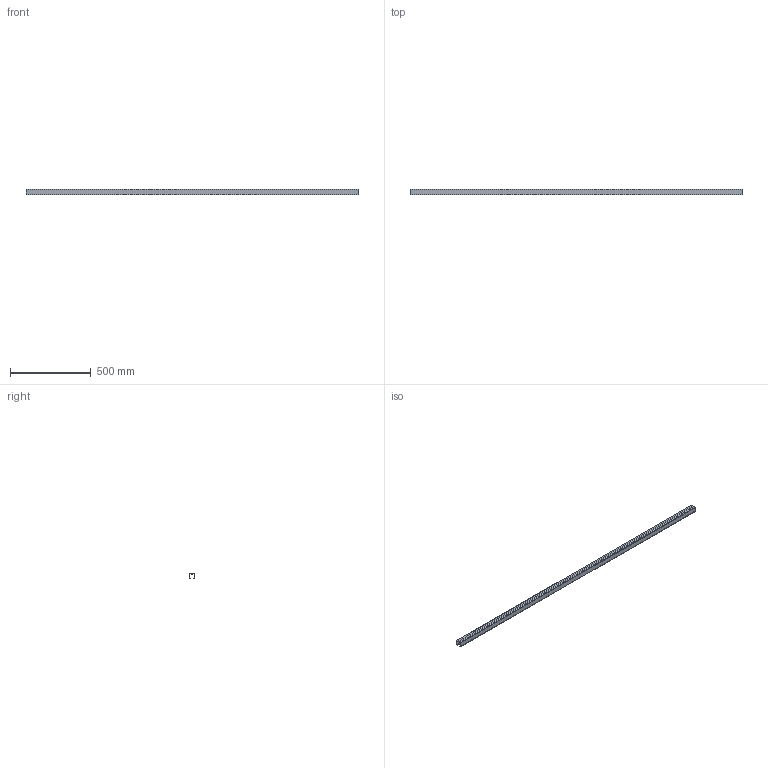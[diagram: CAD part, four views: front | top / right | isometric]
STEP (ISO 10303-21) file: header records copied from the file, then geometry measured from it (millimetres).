
FILE_DESCRIPTION(('STEP AP242'),'1');
FILE_NAME('OPO_65.081.11_volu_schn_3d.stp','2026-01-30T20:49:00',(' '),(' '),'Spatial InterOp 3D',' ',' ');
FILE_SCHEMA(('AP242_MANAGED_MODEL_BASED_3D_ENGINEERING_MIM_LF {1 0 10303 442 1 1 4}'));
Length unit declared in the file: millimetre
Products named in the file (1): 1
Bounding box: 2050 x 34 x 33 mm (x, y, z)
Volume: 562084.4 mm3; surface area: 505690.4 mm2
Topology: 1 solids, 1 shells, 92 faces, 443 edges, 544 vertices
Faces by surface type: plane 72, cylinder 20
Entity records: 5947 total; most frequent: CARTESIAN_POINT 707, DIRECTION 691, ORIENTED_EDGE 512, LINE 383, VECTOR 383, STYLED_ITEM 279, PRESENTATION_STYLE_ASSIGNMENT 279, COLOUR_RGB 279
